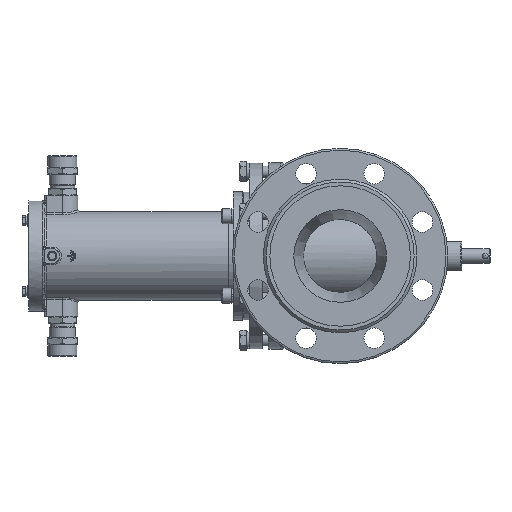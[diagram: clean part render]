
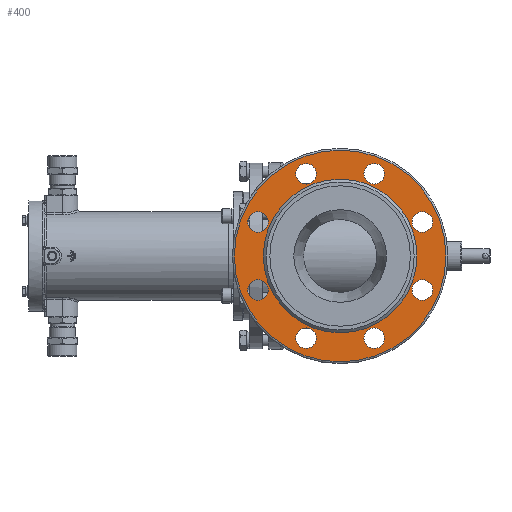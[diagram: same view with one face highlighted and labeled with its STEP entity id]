
A CAD part, left-side view. The second image highlights one B-rep face of the part: STEP entity #400.
In plain terms, the highlighted planar face has unit normal (-1, 0, 0).
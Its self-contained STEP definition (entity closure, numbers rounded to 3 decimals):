
#400=ADVANCED_FACE('',(#8363,#8365,#8367,#8369,#8371,#8373,#8375,#8377,#8379,#8381),
#8383,.T.);
#8363=FACE_BOUND('',#8364,.T.);
#8364=EDGE_LOOP('',(#24952));
#8365=FACE_BOUND('',#8366,.T.);
#8366=EDGE_LOOP('',(#24953));
#8367=FACE_BOUND('',#8368,.T.);
#8368=EDGE_LOOP('',(#24954));
#8369=FACE_BOUND('',#8370,.T.);
#8370=EDGE_LOOP('',(#24955));
#8371=FACE_BOUND('',#8372,.T.);
#8372=EDGE_LOOP('',(#24956));
#8373=FACE_BOUND('',#8374,.T.);
#8374=EDGE_LOOP('',(#24957));
#8375=FACE_BOUND('',#8376,.T.);
#8376=EDGE_LOOP('',(#24958));
#8377=FACE_BOUND('',#8378,.T.);
#8378=EDGE_LOOP('',(#24959));
#8379=FACE_BOUND('',#8380,.T.);
#8380=EDGE_LOOP('',(#24960));
#8381=FACE_OUTER_BOUND('',#8382,.T.);
#8382=EDGE_LOOP('',(#24961));
#8383=PLANE('',#8384);
#8384=AXIS2_PLACEMENT_3D('',#8385,#8386,#8387);
#8385=CARTESIAN_POINT('',(-151.,0.,0.));
#8386=DIRECTION('',(-1.,0.,0.));
#8387=DIRECTION('',(0.,1.,0.));
#24952=ORIENTED_EDGE('',*,*,#37299,.F.);
#24953=ORIENTED_EDGE('',*,*,#37215,.T.);
#24954=ORIENTED_EDGE('',*,*,#37213,.T.);
#24955=ORIENTED_EDGE('',*,*,#37211,.T.);
#24956=ORIENTED_EDGE('',*,*,#37209,.T.);
#24957=ORIENTED_EDGE('',*,*,#37207,.T.);
#24958=ORIENTED_EDGE('',*,*,#37205,.T.);
#24959=ORIENTED_EDGE('',*,*,#37203,.T.);
#24960=ORIENTED_EDGE('',*,*,#37201,.T.);
#24961=ORIENTED_EDGE('',*,*,#37300,.T.);
#37201=EDGE_CURVE('',#42892,#42892,#42894,.F.);
#37203=EDGE_CURVE('',#42895,#42895,#42897,.F.);
#37205=EDGE_CURVE('',#42898,#42898,#42900,.F.);
#37207=EDGE_CURVE('',#42901,#42901,#42903,.F.);
#37209=EDGE_CURVE('',#42904,#42904,#42906,.F.);
#37211=EDGE_CURVE('',#42907,#42907,#42909,.F.);
#37213=EDGE_CURVE('',#42910,#42910,#42912,.F.);
#37215=EDGE_CURVE('',#42913,#42913,#42915,.F.);
#37299=EDGE_CURVE('',#43055,#43055,#43056,.T.);
#37300=EDGE_CURVE('',#43057,#43057,#43058,.T.);
#42892=VERTEX_POINT('',#56955);
#42894=CIRCLE('',#56959,11.);
#42895=VERTEX_POINT('',#56963);
#42897=CIRCLE('',#56967,11.);
#42898=VERTEX_POINT('',#56971);
#42900=CIRCLE('',#56975,11.);
#42901=VERTEX_POINT('',#56979);
#42903=CIRCLE('',#56983,11.);
#42904=VERTEX_POINT('',#56987);
#42906=CIRCLE('',#56991,11.);
#42907=VERTEX_POINT('',#56995);
#42909=CIRCLE('',#56999,11.);
#42910=VERTEX_POINT('',#57003);
#42912=CIRCLE('',#57007,11.);
#42913=VERTEX_POINT('',#57011);
#42915=CIRCLE('',#57015,11.);
#43055=VERTEX_POINT('',#57490);
#43056=CIRCLE('',#57491,82.);
#43057=VERTEX_POINT('',#57495);
#43058=CIRCLE('',#57496,113.);
#56955=CARTESIAN_POINT('',(-151.,87.769,25.355));
#56959=AXIS2_PLACEMENT_3D('',#56960,#56961,#56962);
#56960=CARTESIAN_POINT('',(-151.,87.769,36.355));
#56961=DIRECTION('',(-1.,0.,0.));
#56962=DIRECTION('',(0.,0.,-1.));
#56963=CARTESIAN_POINT('',(-151.,87.769,-47.355));
#56967=AXIS2_PLACEMENT_3D('',#56968,#56969,#56970);
#56968=CARTESIAN_POINT('',(-151.,87.769,-36.355));
#56969=DIRECTION('',(-1.,0.,0.));
#56970=DIRECTION('',(0.,0.,-1.));
#56971=CARTESIAN_POINT('',(-151.,36.355,-98.769));
#56975=AXIS2_PLACEMENT_3D('',#56976,#56977,#56978);
#56976=CARTESIAN_POINT('',(-151.,36.355,-87.769));
#56977=DIRECTION('',(-1.,0.,0.));
#56978=DIRECTION('',(0.,0.,-1.));
#56979=CARTESIAN_POINT('',(-151.,36.355,76.769));
#56983=AXIS2_PLACEMENT_3D('',#56984,#56985,#56986);
#56984=CARTESIAN_POINT('',(-151.,36.355,87.769));
#56985=DIRECTION('',(-1.,0.,0.));
#56986=DIRECTION('',(0.,0.,-1.));
#56987=CARTESIAN_POINT('',(-151.,-87.769,25.355));
#56991=AXIS2_PLACEMENT_3D('',#56992,#56993,#56994);
#56992=CARTESIAN_POINT('',(-151.,-87.769,36.355));
#56993=DIRECTION('',(-1.,0.,0.));
#56994=DIRECTION('',(0.,0.,-1.));
#56995=CARTESIAN_POINT('',(-151.,-87.769,-47.355));
#56999=AXIS2_PLACEMENT_3D('',#57000,#57001,#57002);
#57000=CARTESIAN_POINT('',(-151.,-87.769,-36.355));
#57001=DIRECTION('',(-1.,0.,0.));
#57002=DIRECTION('',(0.,0.,-1.));
#57003=CARTESIAN_POINT('',(-151.,-36.355,-98.769));
#57007=AXIS2_PLACEMENT_3D('',#57008,#57009,#57010);
#57008=CARTESIAN_POINT('',(-151.,-36.355,-87.769));
#57009=DIRECTION('',(-1.,0.,0.));
#57010=DIRECTION('',(0.,0.,-1.));
#57011=CARTESIAN_POINT('',(-151.,-36.355,76.769));
#57015=AXIS2_PLACEMENT_3D('',#57016,#57017,#57018);
#57016=CARTESIAN_POINT('',(-151.,-36.355,87.769));
#57017=DIRECTION('',(-1.,0.,0.));
#57018=DIRECTION('',(0.,0.,-1.));
#57490=CARTESIAN_POINT('',(-151.,82.,0.));
#57491=AXIS2_PLACEMENT_3D('',#57492,#57493,#57494);
#57492=CARTESIAN_POINT('',(-151.,0.,0.));
#57493=DIRECTION('',(-1.,0.,0.));
#57494=DIRECTION('',(0.,1.,0.));
#57495=CARTESIAN_POINT('',(-151.,113.,0.));
#57496=AXIS2_PLACEMENT_3D('',#57497,#57498,#57499);
#57497=CARTESIAN_POINT('',(-151.,0.,0.));
#57498=DIRECTION('',(-1.,0.,0.));
#57499=DIRECTION('',(0.,1.,0.));
